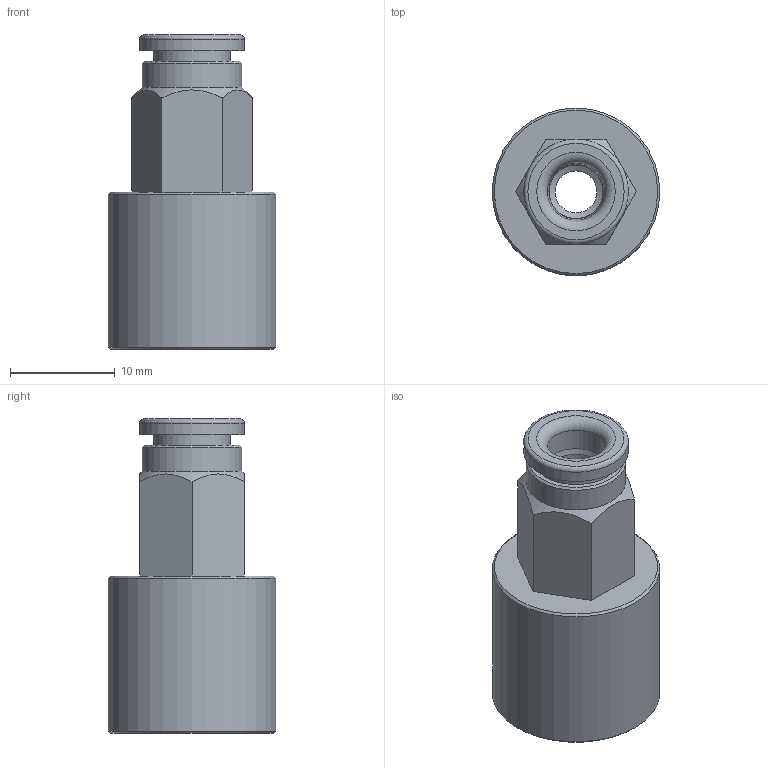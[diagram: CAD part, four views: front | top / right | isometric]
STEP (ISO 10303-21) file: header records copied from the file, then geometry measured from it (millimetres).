
FILE_DESCRIPTION(('Bauteilbeschreibung','HiCAD-Model','HiCAD-STEP-TRANSLATION','Bauteilbeschreibung'),'2;1');
FILE_NAME('B:/ABGLEICH/ZEICHNUNGEN/STEP FÜR INTERNET/STEP/200204_IPSO_02_5_1-4.STP','2011-07-14T17:07:07+00:00',('Konstrukteur'),('Konstrukteur Firma GmbH'),' HiCAD neXt 2008, Step 3.1.1401.2J ','HiCAD neXt 2008','confidential');
FILE_SCHEMA(('AUTOMOTIVE_DESIGN { 1 2 10303 214 0 1 1 1 }'));
Length unit declared in the file: millimetre
Products named in the file (5): A00204_IPSO_02_5_1_4; DR5_1; R200204; R2002040; G 1_4
Assembly tree (4 placements, depth 3):
  A00204_IPSO_02_5_1_4
    DR5_1
    R200204
    R2002040
      G 1_4
Bounding box: 16 x 16 x 30 mm (x, y, z)
Volume: 2342.7 mm3; surface area: 3589.9 mm2
Topology: 3 solids, 3 shells, 48 faces, 99 edges, 62 vertices
Faces by surface type: plane 17, cylinder 14, cone 11, torus 6
Full cylindrical faces by diameter (mm): 4 x1, 5.1 x1, 5.2 x1, 5.5 x1, 6 x1, 7.3 x1, 7.5 x1, 9.5 x1, 10 x1, 11.445 x2, 13.157 x2, 16 x1
Entity records: 1599 total; most frequent: DIRECTION 206, CARTESIAN_POINT 187, ORIENTED_EDGE 118, AXIS2_PLACEMENT_3D 97, EDGE_LOOP 90, COLOUR_RGB 62, PRESENTATION_STYLE_ASSIGNMENT 62, CURVE_STYLE 59
